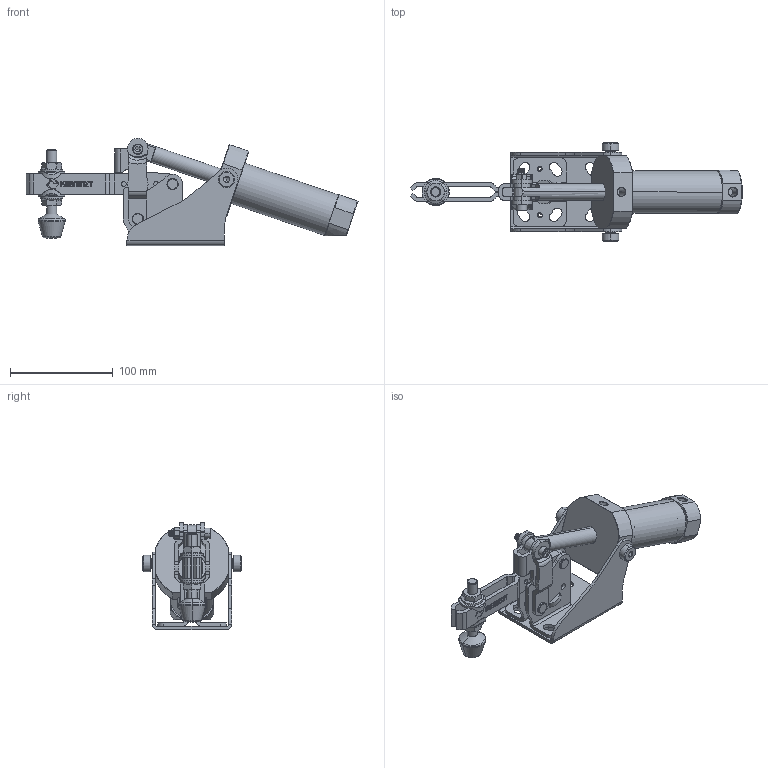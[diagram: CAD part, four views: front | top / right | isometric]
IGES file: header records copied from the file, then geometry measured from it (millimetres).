
Start section: 3D InterOp IGES (v. 2020 1.0.1), Spatial Corp. Copyright (c) 1999-2017.
Global section: file name: 611-4.igs; native system: Spatial Corp.; preprocessor: 3D InterOp ACIS/IGES; author: TraceParts; organization: TraceParts S.A.; date: 20231130.144956; units: millimetre
Bounding box: 323.82 x 96 x 104.5 mm (x, y, z)
Surface area: 145573.8 mm2 (no closed solid volume)
Topology: 0 solids, 0 shells, 1963 faces, 12238 edges, 12210 vertices
Faces by surface type: revolution 1188, extrusion 736, bspline 39
